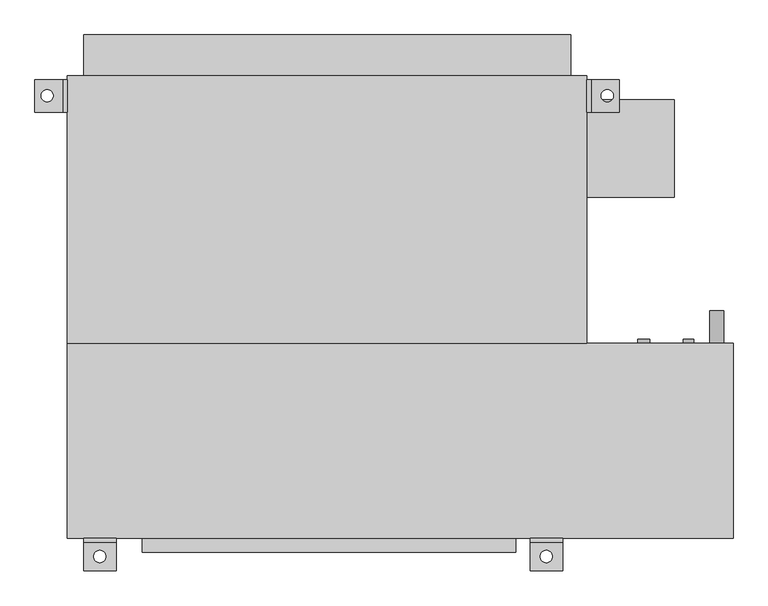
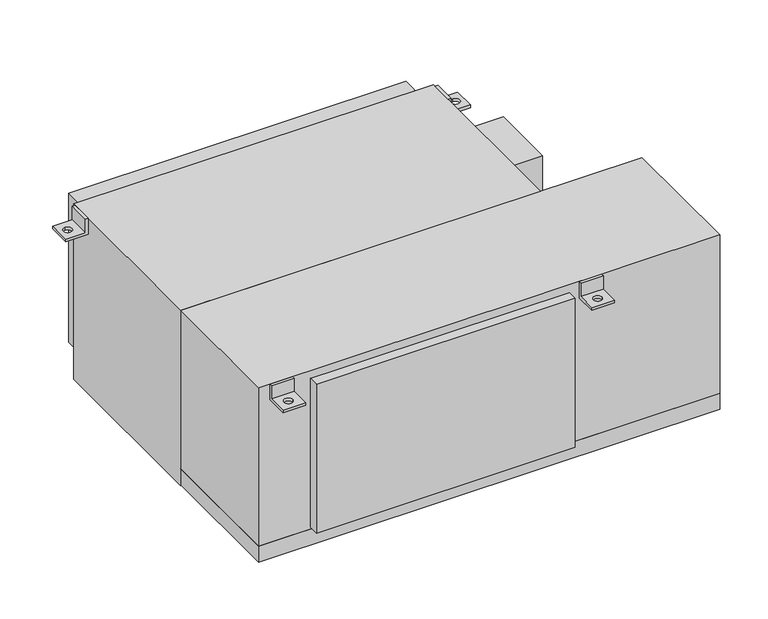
"""IFC4 building model written with IfcOpenShell, lengths in millimetres: proxy geometry, Concealed_High_Capacity_Horizontal_Fan_Coil_Unit_With_Plenum_-_42DCA_-_CARRIER_-_4-Pipe_ValveEnclosure_RH_2022 : Size 10 - 277v/60Hz/1Ph - 6/2 Coil."""

from ifc_helpers import new_model, si_unit, point, frame, frame_2d, origin, place, context, project, spatial, polyline, circle_curve, trimmed, segment, composite_curve, outline, extrude, source, transform, mapped, element, save
from ifc_brep_helpers import plane_surface, revolved_surface, advanced_brep


def mechanical_equipment_7e6c187c(model_context):
    return source(origin(), model_context, "Body", "SolidModel", [
        advanced_brep(
        [(520.7, -390.525, 0.0), (520.7, -396.875, 0.0), (520.7, -396.875, -31.75), (520.7, -441.325, -31.75), (520.7, -441.325, -38.1), (520.7, -390.525, -38.1), (469.9, -390.525, 0.0), (469.9, -390.525, -38.1), (469.9, -441.325, -38.1), (469.9, -441.325, -31.75), (469.9, -396.875, -31.75), (469.9, -396.875, 0.0), (485.775, -419.1, -31.75), (504.825, -419.1, -31.75), (504.825, -419.1, -38.1), (485.775, -419.1, -38.1)],
        [
            (0, 1),
            (1, 2),
            (2, 3),
            (3, 4),
            (4, 5),
            (5, 0),
            (6, 7),
            (7, 8),
            (8, 9),
            (9, 10),
            (10, 11),
            (11, 6),
            (0, 6),
            (11, 1),
            (10, 2),
            (9, 3),
            (12, 13, circle_curve(frame((495.3, -419.1, -31.75), z_axis=(0.0, 0.0, -1.0), x_axis=(1.0, 0.0, 0.0)), 9.525)),
            (13, 12, circle_curve(frame((495.3, -419.1, -31.75), z_axis=(0.0, 0.0, -1.0), x_axis=(1.0, 0.0, 0.0)), 9.525)),
            (8, 4),
            (7, 5),
            (14, 15, circle_curve(frame((495.3, -419.1, -38.1), z_axis=(0.0, 0.0, 1.0), x_axis=(1.0, 0.0, 0.0)), 9.525)),
            (15, 14, circle_curve(frame((495.3, -419.1, -38.1), z_axis=(0.0, 0.0, 1.0), x_axis=(1.0, 0.0, 0.0)), 9.525)),
            (12, 15),
            (14, 13),
        ],
        [
            plane_surface(frame((520.7, -396.875, 0.0), z_axis=(1.0, 0.0, 0.0), x_axis=(0.0, -1.0, 0.0))),
            plane_surface(frame((469.9, -396.875, 0.0), z_axis=(-1.0, 0.0, 0.0), x_axis=(0.0, 1.0, 0.0))),
            plane_surface(frame((520.7, -390.525, 0.0), z_axis=(0.0, 0.0, 1.0), x_axis=(-1.0, 0.0, 0.0))),
            plane_surface(frame((520.7, -396.875, 0.0), z_axis=(0.0, -1.0, 0.0), x_axis=(-1.0, 0.0, 0.0))),
            plane_surface(frame((520.7, -396.875, -31.75), z_axis=(0.0, 0.0, 1.0), x_axis=(-1.0, 0.0, 0.0))),
            plane_surface(frame((520.7, -441.325, -31.75), z_axis=(0.0, -1.0, 0.0), x_axis=(-1.0, 0.0, 0.0))),
            plane_surface(frame((520.7, -441.325, -38.1), z_axis=(0.0, 0.0, -1.0), x_axis=(-1.0, 0.0, 0.0))),
            plane_surface(frame((520.7, -390.525, -38.1), z_axis=(0.0, 1.0, 0.0), x_axis=(-1.0, 0.0, 0.0))),
            revolved_surface(polyline([(504.825, -419.1, -38.1), (504.825, -419.1, -31.75)]), (495.3, -419.1, -31.75), (0.0, 0.0, -1.0)),
        ],
        [
            (0, [[1, 2, 3, 4, 5, 6]]),
            (1, [[7, 8, 9, 10, 11, 12]]),
            (2, [[-1, 13, -12, 14]]),
            (3, [[-2, -14, -11, 15]]),
            (4, [[-3, -15, -10, 16], [17, 18]]),
            (5, [[-4, -16, -9, 19]]),
            (6, [[-5, -19, -8, 20], [21, 22]]),
            (7, [[-6, -20, -7, -13]]),
            (8, [[23, -21, 24, -17]]),
            (8, [[-23, -18, -24, -22]]),
        ],
    ),
        advanced_brep(
        [(-177.8, -390.525, -38.1), (-177.8, -390.525, 0.0), (-177.8, -396.875, 0.0), (-177.8, -396.875, -31.75), (-177.8, -441.325, -31.75), (-177.8, -441.325, -38.1), (-228.6, -390.525, -38.1), (-228.6, -441.325, -38.1), (-228.6, -441.325, -31.75), (-228.6, -396.875, -31.75), (-228.6, -396.875, 0.0), (-228.6, -390.525, 0.0), (-212.725, -419.1, -31.75), (-193.675, -419.1, -31.75), (-193.675, -419.1, -38.1), (-212.725, -419.1, -38.1)],
        [
            (0, 1),
            (1, 2),
            (2, 3),
            (3, 4),
            (4, 5),
            (5, 0),
            (6, 7),
            (7, 8),
            (8, 9),
            (9, 10),
            (10, 11),
            (11, 6),
            (0, 6),
            (11, 1),
            (10, 2),
            (9, 3),
            (8, 4),
            (12, 13, circle_curve(frame((-203.2, -419.1, -31.75), z_axis=(0.0, 0.0, -1.0), x_axis=(1.0, 0.0, 0.0)), 9.525)),
            (13, 12, circle_curve(frame((-203.2, -419.1, -31.75), z_axis=(0.0, 0.0, -1.0), x_axis=(1.0, 0.0, 0.0)), 9.525)),
            (7, 5),
            (14, 15, circle_curve(frame((-203.2, -419.1, -38.1), z_axis=(0.0, 0.0, 1.0), x_axis=(1.0, 0.0, 0.0)), 9.525)),
            (15, 14, circle_curve(frame((-203.2, -419.1, -38.1), z_axis=(0.0, 0.0, 1.0), x_axis=(1.0, 0.0, 0.0)), 9.525)),
            (12, 15),
            (14, 13),
        ],
        [
            plane_surface(frame((-177.8, -390.525, -38.1), z_axis=(1.0, 0.0, 0.0), x_axis=(0.0, 0.0, 1.0))),
            plane_surface(frame((-228.6, -390.525, -38.1), z_axis=(-1.0, 0.0, 0.0), x_axis=(0.0, 0.0, -1.0))),
            plane_surface(frame((-177.8, -390.525, -38.1), z_axis=(0.0, 1.0, 0.0), x_axis=(-1.0, 0.0, 0.0))),
            plane_surface(frame((-177.8, -390.525, 0.0), z_axis=(0.0, 0.0, 1.0), x_axis=(-1.0, 0.0, 0.0))),
            plane_surface(frame((-177.8, -396.875, 0.0), z_axis=(0.0, -1.0, 0.0), x_axis=(-1.0, 0.0, 0.0))),
            plane_surface(frame((-177.8, -396.875, -31.75), z_axis=(0.0, 0.0, 1.0), x_axis=(-1.0, 0.0, 0.0))),
            plane_surface(frame((-177.8, -441.325, -31.75), z_axis=(0.0, -1.0, 0.0), x_axis=(-1.0, 0.0, 0.0))),
            plane_surface(frame((-177.8, -441.325, -38.1), z_axis=(0.0, 0.0, -1.0), x_axis=(-1.0, 0.0, 0.0))),
            revolved_surface(polyline([(-193.67499999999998, -419.1, -38.1), (-193.67499999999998, -419.1, -31.75)]), (-203.2, -419.1, -31.75), (0.0, 0.0, -1.0)),
        ],
        [
            (0, [[1, 2, 3, 4, 5, 6]]),
            (1, [[7, 8, 9, 10, 11, 12]]),
            (2, [[-1, 13, -12, 14]]),
            (3, [[-2, -14, -11, 15]]),
            (4, [[-3, -15, -10, 16]]),
            (5, [[-4, -16, -9, 17], [18, 19]]),
            (6, [[-5, -17, -8, 20]]),
            (7, [[-6, -20, -7, -13], [21, 22]]),
            (8, [[23, -21, 24, -18]]),
            (8, [[-23, -19, -24, -22]]),
        ],
    ),
        extrude(outline(composite_curve([segment(trimmed(circle_curve(frame_2d((-400.05, 762.0)), 11.1125), [point((-400.05, 750.8875))], [point((-400.05, 773.1125))], False, "CARTESIAN"), True, "CONTINUOUS"), segment(trimmed(circle_curve(frame_2d((-400.05, 762.0)), 11.1125), [point((-400.05, 773.1125))], [point((-400.05, 750.8875))], False, "CARTESIAN"), True, "CONTINUOUS")], self_intersect=False)), frame((0.0, -85.725, 0.0), z_axis=(0.0, 1.0, 0.0), x_axis=(0.0, 0.0, 1.0)), (0.0, 0.0, 1.0), 50.8),
        extrude(outline(composite_curve([segment(trimmed(circle_curve(frame_2d((-44.45, 647.7)), 9.525), [point((-44.45, 638.175))], [point((-44.45, 657.225))], False, "CARTESIAN"), True, "CONTINUOUS"), segment(trimmed(circle_curve(frame_2d((-44.45, 647.7)), 9.525), [point((-44.45, 657.225))], [point((-44.45, 638.175))], False, "CARTESIAN"), True, "CONTINUOUS")], self_intersect=False)), frame((0.0, -85.725, 0.0), z_axis=(0.0, 1.0, 0.0), x_axis=(0.0, 0.0, 1.0)), (0.0, 0.0, 1.0), 6.35),
        extrude(outline(composite_curve([segment(trimmed(circle_curve(frame_2d((-276.225, 647.7)), 9.525), [point((-276.225, 638.175))], [point((-276.225, 657.225))], False, "CARTESIAN"), True, "CONTINUOUS"), segment(trimmed(circle_curve(frame_2d((-276.225, 647.7)), 9.525), [point((-276.225, 657.225))], [point((-276.225, 638.175))], False, "CARTESIAN"), True, "CONTINUOUS")], self_intersect=False)), frame((0.0, -85.725, 0.0), z_axis=(0.0, 1.0, 0.0), x_axis=(0.0, 0.0, 1.0)), (0.0, 0.0, 1.0), 6.35),
        extrude(outline(composite_curve([segment(trimmed(circle_curve(frame_2d((-69.85, 717.55)), 7.9375), [point((-69.85, 709.6125))], [point((-69.85, 725.4875))], False, "CARTESIAN"), True, "CONTINUOUS"), segment(trimmed(circle_curve(frame_2d((-69.85, 717.55)), 7.9375), [point((-69.85, 725.4875))], [point((-69.85, 709.6125))], False, "CARTESIAN"), True, "CONTINUOUS")], self_intersect=False)), frame((0.0, -85.725, 0.0), z_axis=(0.0, 1.0, 0.0), x_axis=(0.0, 0.0, 1.0)), (0.0, 0.0, 1.0), 6.35),
        extrude(outline(composite_curve([segment(trimmed(circle_curve(frame_2d((-285.75, 717.55)), 7.9375), [point((-285.75, 709.6125))], [point((-285.75, 725.4875))], False, "CARTESIAN"), True, "CONTINUOUS"), segment(trimmed(circle_curve(frame_2d((-285.75, 717.55)), 7.9375), [point((-285.75, 725.4875))], [point((-285.75, 709.6125))], False, "CARTESIAN"), True, "CONTINUOUS")], self_intersect=False)), frame((0.0, -85.725, 0.0), z_axis=(0.0, 1.0, 0.0), x_axis=(0.0, 0.0, 1.0)), (0.0, 0.0, 1.0), 6.35),
        advanced_brep(
        [(-254.0, 327.025, -38.1), (-304.8, 327.025, -38.1), (-304.8, 327.025, -31.75), (-260.35, 327.025, -31.75), (-260.35, 327.025, 0.0), (-254.0, 327.025, 0.0), (-254.0, 276.225, -38.1), (-254.0, 276.225, 0.0), (-260.35, 276.225, 0.0), (-260.35, 276.225, -31.75), (-304.8, 276.225, -31.75), (-304.8, 276.225, -38.1), (-285.75, 292.1, -38.1), (-285.75, 311.15, -38.1), (-285.75, 311.15, -31.75), (-285.75, 292.1, -31.75)],
        [
            (0, 1),
            (1, 2),
            (2, 3),
            (3, 4),
            (4, 5),
            (5, 0),
            (6, 7),
            (7, 8),
            (8, 9),
            (9, 10),
            (10, 11),
            (11, 6),
            (0, 6),
            (11, 1),
            (12, 13, circle_curve(frame((-285.75, 301.625, -38.1), z_axis=(0.0, 0.0, 1.0), x_axis=(0.0, -1.0, 0.0)), 9.525)),
            (13, 12, circle_curve(frame((-285.75, 301.625, -38.1), z_axis=(0.0, 0.0, 1.0), x_axis=(0.0, -1.0, 0.0)), 9.525)),
            (10, 2),
            (9, 3),
            (14, 15, circle_curve(frame((-285.75, 301.625, -31.75), z_axis=(0.0, 0.0, -1.0), x_axis=(0.0, -1.0, 0.0)), 9.525)),
            (15, 14, circle_curve(frame((-285.75, 301.625, -31.75), z_axis=(0.0, 0.0, -1.0), x_axis=(0.0, -1.0, 0.0)), 9.525)),
            (8, 4),
            (7, 5),
            (14, 13),
            (12, 15),
        ],
        [
            plane_surface(frame((-254.0, 327.025, -38.1), z_axis=(0.0, 1.0, 0.0), x_axis=(-1.0, 0.0, 0.0))),
            plane_surface(frame((-254.0, 276.225, -38.1), z_axis=(0.0, -1.0, 0.0), x_axis=(1.0, 0.0, 0.0))),
            plane_surface(frame((-254.0, 327.025, -38.1), z_axis=(0.0, 0.0, -1.0), x_axis=(0.0, -1.0, 0.0))),
            plane_surface(frame((-304.8, 327.025, -38.1), z_axis=(-1.0, 0.0, 0.0), x_axis=(0.0, -1.0, 0.0))),
            plane_surface(frame((-304.8, 327.025, -31.75), z_axis=(0.0, 0.0, 1.0), x_axis=(0.0, -1.0, 0.0))),
            plane_surface(frame((-260.35, 327.025, -31.75), z_axis=(-1.0, 0.0, 0.0), x_axis=(0.0, -1.0, 0.0))),
            plane_surface(frame((-260.35, 327.025, 0.0), z_axis=(0.0, 0.0, 1.0), x_axis=(0.0, -1.0, 0.0))),
            plane_surface(frame((-254.0, 327.025, 0.0), z_axis=(1.0, 0.0, 0.0), x_axis=(0.0, -1.0, 0.0))),
            revolved_surface(polyline([(-285.75, 292.1, -38.1), (-285.75, 292.1, -31.75)]), (-285.75, 301.625, -31.75), (0.0, 0.0, -1.0)),
        ],
        [
            (0, [[1, 2, 3, 4, 5, 6]]),
            (1, [[7, 8, 9, 10, 11, 12]]),
            (2, [[-1, 13, -12, 14], [15, 16]]),
            (3, [[-2, -14, -11, 17]]),
            (4, [[-3, -17, -10, 18], [19, 20]]),
            (5, [[-4, -18, -9, 21]]),
            (6, [[-5, -21, -8, 22]]),
            (7, [[-6, -22, -7, -13]]),
            (8, [[23, -15, 24, -19]]),
            (8, [[-23, -20, -24, -16]]),
        ],
    ),
        advanced_brep(
        [(558.8, 327.025, -38.1), (558.8, 327.025, 0.0), (565.15, 327.025, 0.0), (565.15, 327.025, -31.75), (609.6, 327.025, -31.75), (609.6, 327.025, -38.1), (558.8, 276.225, -38.1), (609.6, 276.225, -38.1), (609.6, 276.225, -31.75), (565.15, 276.225, -31.75), (565.15, 276.225, 0.0), (558.8, 276.225, 0.0), (590.55, 311.15, -31.75), (590.55, 292.1, -31.75), (590.55, 292.1, -38.1), (590.55, 311.15, -38.1)],
        [
            (0, 1),
            (1, 2),
            (2, 3),
            (3, 4),
            (4, 5),
            (5, 0),
            (6, 7),
            (7, 8),
            (8, 9),
            (9, 10),
            (10, 11),
            (11, 6),
            (0, 6),
            (11, 1),
            (10, 2),
            (9, 3),
            (8, 4),
            (12, 13, circle_curve(frame((590.55, 301.625, -31.75), z_axis=(0.0, 0.0, -1.0), x_axis=(0.0, -1.0, 0.0)), 9.525)),
            (13, 12, circle_curve(frame((590.55, 301.625, -31.75), z_axis=(0.0, 0.0, -1.0), x_axis=(0.0, -1.0, 0.0)), 9.525)),
            (7, 5),
            (14, 15, circle_curve(frame((590.55, 301.625, -38.1), z_axis=(0.0, 0.0, 1.0), x_axis=(0.0, -1.0, 0.0)), 9.525)),
            (15, 14, circle_curve(frame((590.55, 301.625, -38.1), z_axis=(0.0, 0.0, 1.0), x_axis=(0.0, -1.0, 0.0)), 9.525)),
            (12, 15),
            (14, 13),
        ],
        [
            plane_surface(frame((-254.0, 327.025, -38.1), z_axis=(0.0, 1.0, 0.0), x_axis=(-1.0, 0.0, 0.0))),
            plane_surface(frame((-254.0, 276.225, -38.1), z_axis=(0.0, -1.0, 0.0), x_axis=(1.0, 0.0, 0.0))),
            plane_surface(frame((558.8, 327.025, -38.1), z_axis=(-1.0, 0.0, 0.0), x_axis=(0.0, -1.0, 0.0))),
            plane_surface(frame((558.8, 327.025, 0.0), z_axis=(0.0, 0.0, 1.0), x_axis=(0.0, -1.0, 0.0))),
            plane_surface(frame((565.15, 327.025, 0.0), z_axis=(1.0, 0.0, 0.0), x_axis=(0.0, -1.0, 0.0))),
            plane_surface(frame((565.15, 327.025, -31.75), z_axis=(0.0, 0.0, 1.0), x_axis=(0.0, -1.0, 0.0))),
            plane_surface(frame((609.6, 327.025, -31.75), z_axis=(1.0, 0.0, 0.0), x_axis=(0.0, -1.0, 0.0))),
            plane_surface(frame((609.6, 327.025, -38.1), z_axis=(0.0, 0.0, -1.0), x_axis=(0.0, -1.0, 0.0))),
            revolved_surface(polyline([(590.55, 292.1, -38.1), (590.55, 292.1, -31.75)]), (590.55, 301.625, -31.75), (0.0, 0.0, -1.0)),
        ],
        [
            (0, [[1, 2, 3, 4, 5, 6]]),
            (1, [[7, 8, 9, 10, 11, 12]]),
            (2, [[-1, 13, -12, 14]]),
            (3, [[-2, -14, -11, 15]]),
            (4, [[-3, -15, -10, 16]]),
            (5, [[-4, -16, -9, 17], [18, 19]]),
            (6, [[-5, -17, -8, 20]]),
            (7, [[-6, -20, -7, -13], [21, 22]]),
            (8, [[23, -21, 24, -18]]),
            (8, [[-23, -19, -24, -22]]),
        ],
    ),
        extrude(outline(polyline([(-228.6, 396.875), (533.4, 396.875), (533.4, 333.375), (-228.6, 333.375), (-228.6, 396.875)])), frame((0.0, 0.0, -377.825), z_axis=(0.0, 0.0, 1.0), x_axis=(1.0, 0.0, 0.0)), (0.0, 0.0, 1.0), 355.6),
        extrude(outline(polyline([(695.325, 295.275), (695.325, 142.875), (558.8, 142.875), (558.8, 295.275), (695.325, 295.275)])), frame((0.0, 0.0, -254.0), z_axis=(0.0, 0.0, 1.0), x_axis=(1.0, 0.0, 0.0)), (0.0, 0.0, 1.0), 152.4),
        extrude(outline(polyline([(447.675, -412.75), (-136.525, -412.75), (-136.525, -390.525), (447.675, -390.525), (447.675, -412.75)])), frame((0.0, 0.0, -374.65), z_axis=(0.0, 0.0, 1.0), x_axis=(1.0, 0.0, 0.0)), (0.0, 0.0, 1.0), 355.6),
        extrude(outline(polyline([(558.8, -85.725), (-254.0, -85.725), (-254.0, 333.375), (558.8, 333.375), (558.8, -85.725)])), frame((0.0, 0.0, -419.1), z_axis=(0.0, 0.0, 1.0), x_axis=(1.0, 0.0, 0.0)), (0.0, 0.0, 1.0), 419.1),
        extrude(outline(polyline([(787.4, -85.725), (787.4, -390.525), (-254.0, -390.525), (-254.0, -85.725), (787.4, -85.725)])), frame((0.0, 0.0, -377.825), z_axis=(0.0, 0.0, 1.0), x_axis=(1.0, 0.0, 0.0)), (0.0, 0.0, 1.0), 377.825),
        extrude(outline(polyline([(787.4, -85.725), (787.4, -390.525), (-254.0, -390.525), (-254.0, -85.725), (787.4, -85.725)])), frame((0.0, 0.0, -415.925), z_axis=(0.0, 0.0, 1.0), x_axis=(1.0, 0.0, 0.0)), (0.0, 0.0, 1.0), 38.1),
    ])


if __name__ == "__main__":
    model = new_model("IFC4")
    model_context = context("Model", 3, world=origin())
    ifc_project = project(units=[si_unit("LENGTHUNIT", "METRE", prefix="MILLI")], contexts=[model_context])
    site = spatial("IfcSite", under=ifc_project)
    building = spatial("IfcBuilding", under=site)
    placement = place(None, origin())
    mechanical_equipment_shape = mechanical_equipment_7e6c187c(model_context)
    element("IfcBuildingElementProxy", 1, Name="Concealed_High_Capacity_Horizontal_Fan_Coil_Unit_With_Plenum_-_42DCA_-_CARRIER_-_4-Pipe_ValveEnclosure_RH_2022 : Size 10 - 277v/60Hz/1Ph - 6/2 Coil", ObjectType="Concealed_High_Capacity_Horizontal_Fan_Coil_Unit_With_Plenum_-_42DCA_-_CARRIER_-_4-Pipe_ValveEnclosure_RH_2022 : Size 10 - 277v/60Hz/1Ph - 6/2 Coil", at=placement, inside=building, context=model_context, shape_type="MappedRepresentation", body=[
        mapped(mechanical_equipment_shape, transform((0.0, 0.0, 0.0), x_axis=(1.0, 0.0, 0.0), y_axis=(0.0, 1.0, 0.0), z_axis=(0.0, 0.0, 1.0))),
    ])
    save(model, "model.ifc")
